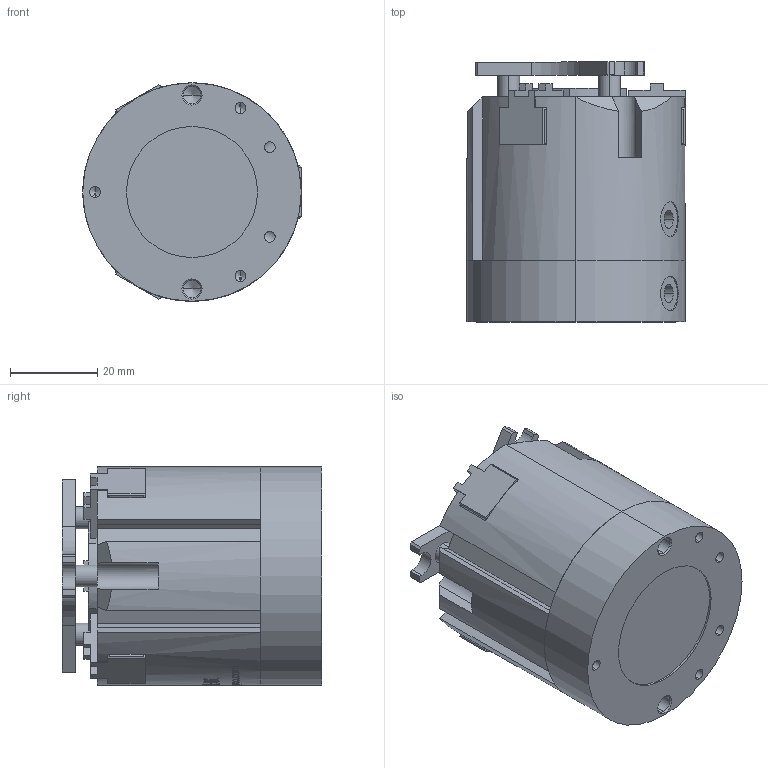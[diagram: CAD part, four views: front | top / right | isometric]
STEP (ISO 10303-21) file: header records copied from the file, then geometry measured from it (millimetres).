
FILE_DESCRIPTION (( 'STEP AP203' ), '1' );
FILE_NAME ('MAC3-50-P-MC&MA原始檔-組合-W106.04.13.STEP', '2017-04-13T08:03:30', ( 'DanyaoCAD' ), ( '' ), 'SwSTEP 2.0', 'SolidWorks 2016', '' );
FILE_SCHEMA (( 'CONFIG_CONTROL_DESIGN' ));
Length unit declared in the file: millimetre
Products named in the file (7): Corpo; Coperchio; Fondello; Piattello; Spintore; MAC3-50-P-MC&MA原始檔-組合-W106.04.13; Griffa
Assembly tree (8 placements, depth 2):
  MAC3-50-P-MC&MA原始檔-組合-W106.04.13
    Griffa  x3
    Corpo
    Coperchio
    Fondello
    Piattello
    Spintore
Bounding box: 50 x 59.5 x 50 mm (x, y, z)
Volume: 96286.6 mm3; surface area: 30274 mm2
Topology: 8 solids, 8 shells, 1168 faces, 3238 edges, 2122 vertices
Faces by surface type: bspline 665, plane 291, cylinder 160, cone 52
Entity records: 75135 total; most frequent: CARTESIAN_POINT 52372, ORIENTED_EDGE 5988, EDGE_CURVE 2994, DIRECTION 2119, B_SPLINE_CURVE_WITH_KNOTS 2049, VERTEX_POINT 1986, EDGE_LOOP 1180, ADVANCED_FACE 1090
